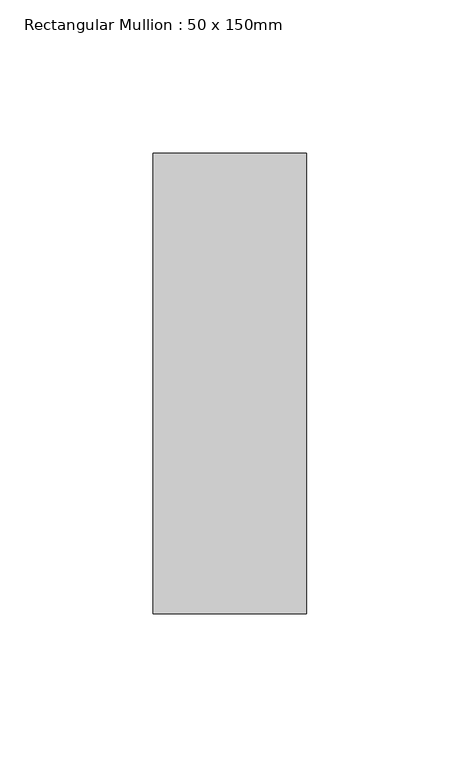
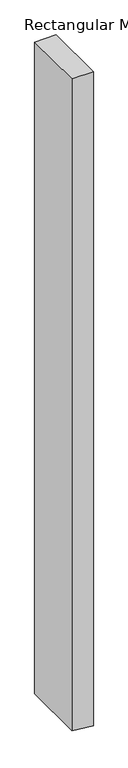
"""IFC4 building model written with IfcOpenShell, lengths in millimetres: member geometry, Rectangular Mullion : 50 x 150mm."""

import ifcopenshell
import ifcopenshell.guid

model = None  # the IFC model being written
_history = None  # IfcOwnerHistory: only IFC2X3 demands one
_inside = {}  # id of a spatial element -> (the spatial element, [elements in it])
_under = {}  # id of a project, library or spatial element -> (it, [spatial elements below it])
_declared = {}  # id of a project -> (the project, [libraries it declares])
_typed = {}  # id of a type object -> (the type object, [elements of that type])
_made_of = {}  # id of a material, layer set ... -> (it, [elements and type objects made of it])


def new_model(schema):
    """Start an empty IFC model of exactly this schema.

    Asked for "IFC4X3", IfcOpenShell would pick the latest addendum, in which some entities
    have other attributes; the version numbers below select the first issue.
    IFC2X3 requires an IfcOwnerHistory on every rooted entity: one is made here for all.
    """
    global model, _history
    if schema == "IFC4X3":
        model = ifcopenshell.file(schema_version=(4, 3, 0, 0))
    else:
        model = ifcopenshell.file(schema=schema)
    _inside.clear()
    _under.clear()
    _declared.clear()
    _typed.clear()
    _made_of.clear()
    _history = None
    if model.schema == "IFC2X3":
        org = make("IfcOrganization", Name="unknown")
        user = make(
            "IfcPersonAndOrganization",
            ThePerson=make("IfcPerson", FamilyName="unknown"),
            TheOrganization=org,
        )
        app = make(
            "IfcApplication",
            ApplicationDeveloper=org,
            Version="unknown",
            ApplicationFullName="unknown",
            ApplicationIdentifier="unknown",
        )
        _history = make(
            "IfcOwnerHistory",
            OwningUser=user,
            OwningApplication=app,
            ChangeAction="ADDED",
            CreationDate=0,
        )
    return model


def make(cls, **values):
    """One entity of the class cls with the attributes given. An attribute that is None is left unset."""
    return model.create_entity(
        cls, **{name: value for name, value in values.items() if value is not None}
    )


def rooted(cls, **values):
    """An entity with a GlobalId (a new one), such as an element, a storey or a relation."""
    return make(cls, GlobalId=ifcopenshell.guid.new(), OwnerHistory=_history, **values)


def si_unit(unit_type, name, prefix=None):
    """IfcSIUnit, for example si_unit("LENGTHUNIT", "METRE", prefix="MILLI")."""
    return make("IfcSIUnit", UnitType=unit_type, Prefix=prefix, Name=name)


def assignment(units):
    """IfcUnitAssignment: the units of a project."""
    return None if units is None else make("IfcUnitAssignment", Units=units)


def point(xyz):
    """IfcCartesianPoint."""
    return None if xyz is None else make("IfcCartesianPoint", Coordinates=xyz)


def direction(xyz):
    """IfcDirection."""
    return None if xyz is None else make("IfcDirection", DirectionRatios=xyz)


def frame(location, z_axis=None, x_axis=None):
    """IfcAxis2Placement3D, a coordinate frame: its origin and axes. An axis left out is left unset."""
    return make(
        "IfcAxis2Placement3D",
        Location=point(location),
        Axis=direction(z_axis),
        RefDirection=direction(x_axis),
    )


def origin():
    """The frame at (0, 0, 0) with its axes left unset."""
    return frame((0.0, 0.0, 0.0))


def place(relative_to, where):
    """IfcLocalPlacement: puts the frame where relative to a parent placement (None: the world)."""
    return make(
        "IfcLocalPlacement", PlacementRelTo=relative_to, RelativePlacement=where
    )


def context(
    kind, dimensions, precision=None, world=None, true_north=None, identifier=None
):
    """IfcGeometricRepresentationContext, for example the 3D "Model" context."""
    return make(
        "IfcGeometricRepresentationContext",
        ContextIdentifier=identifier,
        ContextType=kind,
        CoordinateSpaceDimension=dimensions,
        Precision=precision,
        WorldCoordinateSystem=world,
        TrueNorth=true_north,
    )


def project(units=None, contexts=None):
    """IfcProject with its units and contexts."""
    return rooted(
        "IfcProject",
        Name="project",
        RepresentationContexts=contexts,
        UnitsInContext=assignment(units),
    )


def spatial(cls, under=None, at=None, **own):
    """A site, building, storey or space (cls), placed at a placement, below another one or the project."""
    s = rooted(cls, ObjectPlacement=at, **own)
    if under is not None:
        _under.setdefault(under.id(), (under, []))[1].append(s)
    return s


def polyline(points):
    """IfcPolyline through the points."""
    return make("IfcPolyline", Points=[point(p) for p in points])


def outline(outer, holes=None, kind="AREA"):
    """IfcArbitraryClosedProfileDef: a profile drawn as a closed curve; with holes, ...WithVoids."""
    if holes is None:
        return make("IfcArbitraryClosedProfileDef", ProfileType=kind, OuterCurve=outer)
    return make(
        "IfcArbitraryProfileDefWithVoids",
        ProfileType=kind,
        OuterCurve=outer,
        InnerCurves=holes,
    )


def extrude(swept, where, along, depth):
    """IfcExtrudedAreaSolid: the profile swept, set in the frame where, extruded along a direction by depth."""
    return make(
        "IfcExtrudedAreaSolid",
        SweptArea=swept,
        Position=where,
        ExtrudedDirection=direction(along),
        Depth=depth,
    )


def shape(context_of_items, identifier, shape_type, items):
    """IfcShapeRepresentation: the items that make up one representation, for example the "Body"."""
    return make(
        "IfcShapeRepresentation",
        ContextOfItems=context_of_items,
        RepresentationIdentifier=identifier,
        RepresentationType=shape_type,
        Items=items,
    )


def source(mapping_origin, context_of_items, identifier, shape_type, items):
    """IfcRepresentationMap: a shape defined once, which mapped items show again and again."""
    return make(
        "IfcRepresentationMap",
        MappingOrigin=mapping_origin,
        MappedRepresentation=shape(context_of_items, identifier, shape_type, items),
    )


def transform(
    local_origin,
    x_axis=None,
    y_axis=None,
    z_axis=None,
    scale=None,
    scale2=None,
    scale3=None,
    uniform=True,
):
    """IfcCartesianTransformationOperator3D, or its non-uniform kind. x_axis, y_axis, z_axis: its Axis1, 2, 3."""
    if uniform:
        return make(
            "IfcCartesianTransformationOperator3D",
            Axis1=direction(x_axis),
            Axis2=direction(y_axis),
            LocalOrigin=point(local_origin),
            Scale=scale,
            Axis3=direction(z_axis),
        )
    return make(
        "IfcCartesianTransformationOperator3DnonUniform",
        Axis1=direction(x_axis),
        Axis2=direction(y_axis),
        LocalOrigin=point(local_origin),
        Scale=scale,
        Axis3=direction(z_axis),
        Scale2=scale2,
        Scale3=scale3,
    )


def mapped(mapping_source, mapping_target):
    """IfcMappedItem: shows the shape of a source again, moved by a transform."""
    return make(
        "IfcMappedItem", MappingSource=mapping_source, MappingTarget=mapping_target
    )


def made_of(thing, what):
    """Note that an element or type object is made of a material, layer set ...; save() writes the relation."""
    if what is not None:
        _made_of.setdefault(what.id(), (what, []))[1].append(thing)
    return thing


def element(
    cls,
    number,
    at=None,
    inside=None,
    cuts=None,
    type_object=None,
    material=None,
    context=None,
    identifier="Body",
    shape_type=None,
    held_by="IfcProductDefinitionShape",
    body=None,
    shapes=None,
    **own,
):
    """One element of the class cls, such as IfcWall. Its Tag is "e" and its number.

    at: its placement. inside: the storey or other place that contains it. cuts: it is an
    opening in that element (IfcRelVoidsElement). A single representation is given by context,
    identifier, shape_type and body (its items); several are given by shapes. held_by: the class
    of the entity that holds the representations. save() writes the other relations.
    """
    e = rooted(cls, Tag="e%d" % number, ObjectPlacement=at, **own)
    if body is not None:
        shapes = [shape(context, identifier, shape_type, body)]
    if shapes is not None:
        e.Representation = make(held_by, Representations=shapes)
    if inside is not None:
        _inside.setdefault(inside.id(), (inside, []))[1].append(e)
    if cuts is not None:
        rooted(
            "IfcRelVoidsElement", RelatingBuildingElement=cuts, RelatedOpeningElement=e
        )
    if type_object is not None:
        _typed.setdefault(type_object.id(), (type_object, []))[1].append(e)
    return made_of(e, material)


def aggregate(whole, parts):
    """IfcRelAggregates: a whole, such as a stair, and the parts it consists of."""
    return rooted("IfcRelAggregates", RelatingObject=whole, RelatedObjects=parts)


def save(model, path):
    """Write the relations noted so far, then the file.

    IfcRelAggregates (storeys below a building ...), IfcRelContainedInSpatialStructure (elements
    in a storey), IfcRelDefinesByType, IfcRelAssociatesMaterial and IfcRelDeclares: one each for
    every whole, place, type object, material and project.
    """
    for whole, parts in _under.values():
        aggregate(whole, parts)
    for where, things in _inside.values():
        rooted(
            "IfcRelContainedInSpatialStructure",
            RelatedElements=things,
            RelatingStructure=where,
        )
    for kind, things in _typed.values():
        rooted("IfcRelDefinesByType", RelatedObjects=things, RelatingType=kind)
    for what, things in _made_of.values():
        rooted("IfcRelAssociatesMaterial", RelatedObjects=things, RelatingMaterial=what)
    for by, libraries in _declared.values():
        rooted("IfcRelDeclares", RelatingContext=by, RelatedDefinitions=libraries)
    model.write(path)


def rectangular_mullion_50_x_150mm_fb43554d(model_context):
    return source(origin(), model_context, "Body", "SweptSolid", [
        extrude(outline(polyline([(0.0, 25.0), (0.0, -25.0), (-1606.5756593, -25.0), (-1610.0558185, 5.6423937), (-1612.2543267, 25.0), (0.0, 25.0)])), frame((0.0, -75.0, 0.0), z_axis=(0.0, 1.0, 0.0), x_axis=(0.0, 0.0, 1.0)), (0.0, 0.0, 1.0), 150.0),
    ])


if __name__ == "__main__":
    model = new_model("IFC4")
    model_context = context("Model", 3, world=origin())
    ifc_project = project(units=[si_unit("LENGTHUNIT", "METRE", prefix="MILLI")], contexts=[model_context])
    site = spatial("IfcSite", under=ifc_project)
    building = spatial("IfcBuilding", under=site)
    placement = place(None, origin())
    rectangular_mullion_50_x_150mm_shape = rectangular_mullion_50_x_150mm_fb43554d(model_context)
    element("IfcMember", 1, ObjectType="Rectangular Mullion : 50 x 150mm", at=placement, inside=building, context=model_context, shape_type="MappedRepresentation", body=[
        mapped(rectangular_mullion_50_x_150mm_shape, transform((0.0, 0.0, 0.0), x_axis=(1.0, 0.0, 0.0), y_axis=(0.0, 1.0, 0.0), z_axis=(0.0, 0.0, 1.0))),
    ])
    save(model, "model.ifc")
